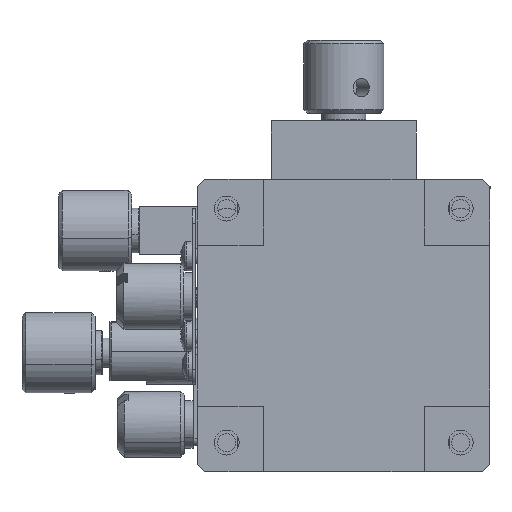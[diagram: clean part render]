
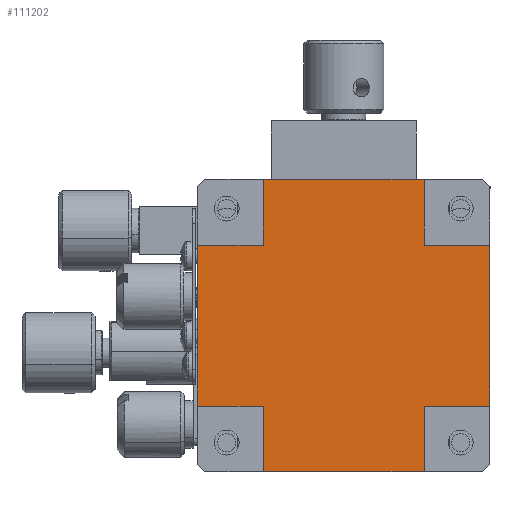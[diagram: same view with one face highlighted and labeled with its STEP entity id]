
A CAD part, front view. The second image highlights one B-rep face of the part: STEP entity #111202.
In plain terms, the highlighted planar face has unit normal (0, -1, 0).
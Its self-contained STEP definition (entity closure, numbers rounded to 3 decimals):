
#844 = DIRECTION ( 'NONE',  ( 0., 0., -1. ) ) ;
#1087 = VERTEX_POINT ( 'NONE', #50672 ) ;
#7184 = ORIENTED_EDGE ( 'NONE', *, *, #91038, .T. ) ;
#7298 = DIRECTION ( 'NONE',  ( 0., 0., -1. ) ) ;
#9354 = VERTEX_POINT ( 'NONE', #70710 ) ;
#14132 = VECTOR ( 'NONE', #165267, 1000. ) ;
#14985 = LINE ( 'NONE', #67682, #135905 ) ;
#17481 = CARTESIAN_POINT ( 'NONE',  ( 24.407, 0.447, -21.444 ) ) ;
#18806 = CARTESIAN_POINT ( 'NONE',  ( -6.593, 0.447, 9.556 ) ) ;
#19020 = VECTOR ( 'NONE', #21464, 1000. ) ;
#21464 = DIRECTION ( 'NONE',  ( 0., 0., 1. ) ) ;
#21714 = CARTESIAN_POINT ( 'NONE',  ( 24.407, 0.447, -12.444 ) ) ;
#23888 = VECTOR ( 'NONE', #124932, 1000. ) ;
#25155 = CARTESIAN_POINT ( 'NONE',  ( 2.407, 0.447, 9.556 ) ) ;
#28369 = CARTESIAN_POINT ( 'NONE',  ( -6.593, 0.447, -12.444 ) ) ;
#30266 = VECTOR ( 'NONE', #81060, 1000. ) ;
#33817 = ORIENTED_EDGE ( 'NONE', *, *, #145435, .F. ) ;
#33948 = CARTESIAN_POINT ( 'NONE',  ( 2.407, 0.447, 18.556 ) ) ;
#35277 = LINE ( 'NONE', #87962, #19020 ) ;
#37853 = EDGE_CURVE ( 'NONE', #137902, #1087, #106249, .T. ) ;
#38704 = ORIENTED_EDGE ( 'NONE', *, *, #158687, .F. ) ;
#39291 = ORIENTED_EDGE ( 'NONE', *, *, #84612, .F. ) ;
#43835 = LINE ( 'NONE', #94841, #62000 ) ;
#46905 = LINE ( 'NONE', #33948, #14132 ) ;
#47820 = VERTEX_POINT ( 'NONE', #147397 ) ;
#49505 = ORIENTED_EDGE ( 'NONE', *, *, #71157, .F. ) ;
#49543 = DIRECTION ( 'NONE',  ( 0., -1., 0. ) ) ;
#50009 = CARTESIAN_POINT ( 'NONE',  ( 24.407, 0.447, 18.556 ) ) ;
#50672 = CARTESIAN_POINT ( 'NONE',  ( 24.407, 0.447, 9.556 ) ) ;
#51260 = FACE_OUTER_BOUND ( 'NONE', #115578, .T. ) ;
#52972 = DIRECTION ( 'NONE',  ( 0., 0., 1. ) ) ;
#55808 = VERTEX_POINT ( 'NONE', #25155 ) ;
#56316 = VECTOR ( 'NONE', #7298, 1000. ) ;
#56799 = DIRECTION ( 'NONE',  ( 1., 0., 0. ) ) ;
#57812 = LINE ( 'NONE', #97549, #152074 ) ;
#62000 = VECTOR ( 'NONE', #56799, 1000. ) ;
#63059 = CARTESIAN_POINT ( 'NONE',  ( 33.407, 0.447, -12.444 ) ) ;
#63473 = ORIENTED_EDGE ( 'NONE', *, *, #108813, .F. ) ;
#67682 = CARTESIAN_POINT ( 'NONE',  ( 24.407, 0.447, -21.444 ) ) ;
#69048 = ORIENTED_EDGE ( 'NONE', *, *, #136011, .T. ) ;
#70710 = CARTESIAN_POINT ( 'NONE',  ( 2.407, 0.447, 18.556 ) ) ;
#70795 = DIRECTION ( 'NONE',  ( 0., 0., 1. ) ) ;
#71157 = EDGE_CURVE ( 'NONE', #72690, #55808, #153283, .T. ) ;
#72690 = VERTEX_POINT ( 'NONE', #18806 ) ;
#76902 = CARTESIAN_POINT ( 'NONE',  ( 24.407, 0.447, 18.556 ) ) ;
#78047 = PLANE ( 'NONE',  #141120 ) ;
#79347 = DIRECTION ( 'NONE',  ( -1., 0., 0. ) ) ;
#79703 = VERTEX_POINT ( 'NONE', #17481 ) ;
#81060 = DIRECTION ( 'NONE',  ( -1., 0., 0. ) ) ;
#84019 = DIRECTION ( 'NONE',  ( 0., 0., -1. ) ) ;
#84612 = EDGE_CURVE ( 'NONE', #111967, #79703, #14985, .T. ) ;
#85604 = VERTEX_POINT ( 'NONE', #131639 ) ;
#85680 = LINE ( 'NONE', #152207, #143394 ) ;
#85925 = LINE ( 'NONE', #111013, #56316 ) ;
#87962 = CARTESIAN_POINT ( 'NONE',  ( 33.407, 0.447, -21.444 ) ) ;
#91038 = EDGE_CURVE ( 'NONE', #72690, #108369, #85925, .T. ) ;
#91613 = CARTESIAN_POINT ( 'NONE',  ( -6.593, 0.447, -12.444 ) ) ;
#94841 = CARTESIAN_POINT ( 'NONE',  ( 33.407, 0.447, -21.444 ) ) ;
#95869 = EDGE_CURVE ( 'NONE', #138323, #47820, #35277, .T. ) ;
#97549 = CARTESIAN_POINT ( 'NONE',  ( 2.407, 0.447, -21.444 ) ) ;
#98951 = LINE ( 'NONE', #111080, #23888 ) ;
#102199 = VECTOR ( 'NONE', #151589, 1000. ) ;
#106249 = LINE ( 'NONE', #76902, #157092 ) ;
#106822 = ORIENTED_EDGE ( 'NONE', *, *, #150896, .F. ) ;
#108369 = VERTEX_POINT ( 'NONE', #91613 ) ;
#108813 = EDGE_CURVE ( 'NONE', #85604, #170867, #57812, .T. ) ;
#110201 = ORIENTED_EDGE ( 'NONE', *, *, #95869, .T. ) ;
#111013 = CARTESIAN_POINT ( 'NONE',  ( -6.593, 0.447, -21.444 ) ) ;
#111080 = CARTESIAN_POINT ( 'NONE',  ( 33.407, 0.447, 18.556 ) ) ;
#111202 = ADVANCED_FACE ( 'NONE', ( #51260 ), #78047, .T. ) ;
#111967 = VERTEX_POINT ( 'NONE', #21714 ) ;
#113714 = EDGE_CURVE ( 'NONE', #138323, #111967, #118257, .T. ) ;
#114713 = ORIENTED_EDGE ( 'NONE', *, *, #127703, .T. ) ;
#115578 = EDGE_LOOP ( 'NONE', ( #110201, #33817, #165827, #69048, #38704, #49505, #7184, #106822, #63473, #114713, #39291, #153874 ) ) ;
#118257 = LINE ( 'NONE', #132942, #141358 ) ;
#124932 = DIRECTION ( 'NONE',  ( -1., 0., 0. ) ) ;
#127703 = EDGE_CURVE ( 'NONE', #85604, #79703, #43835, .T. ) ;
#131639 = CARTESIAN_POINT ( 'NONE',  ( 2.407, 0.447, -21.444 ) ) ;
#131642 = CARTESIAN_POINT ( 'NONE',  ( 13.407, 0.447, -1.444 ) ) ;
#132942 = CARTESIAN_POINT ( 'NONE',  ( 33.407, 0.447, -12.444 ) ) ;
#134396 = CARTESIAN_POINT ( 'NONE',  ( 2.407, 0.447, -12.444 ) ) ;
#135905 = VECTOR ( 'NONE', #84019, 1000. ) ;
#136011 = EDGE_CURVE ( 'NONE', #137902, #9354, #98951, .T. ) ;
#137817 = CARTESIAN_POINT ( 'NONE',  ( -6.593, 0.447, 9.556 ) ) ;
#137902 = VERTEX_POINT ( 'NONE', #50009 ) ;
#138323 = VERTEX_POINT ( 'NONE', #63059 ) ;
#141120 = AXIS2_PLACEMENT_3D ( 'NONE', #131642, #49543, #52972 ) ;
#141358 = VECTOR ( 'NONE', #79347, 1000. ) ;
#143394 = VECTOR ( 'NONE', #153900, 1000. ) ;
#145435 = EDGE_CURVE ( 'NONE', #1087, #47820, #85680, .T. ) ;
#147397 = CARTESIAN_POINT ( 'NONE',  ( 33.407, 0.447, 9.556 ) ) ;
#150896 = EDGE_CURVE ( 'NONE', #170867, #108369, #170955, .T. ) ;
#151589 = DIRECTION ( 'NONE',  ( 1., 0., 0. ) ) ;
#152074 = VECTOR ( 'NONE', #70795, 1000. ) ;
#152207 = CARTESIAN_POINT ( 'NONE',  ( 33.407, 0.447, 9.556 ) ) ;
#153283 = LINE ( 'NONE', #137817, #102199 ) ;
#153874 = ORIENTED_EDGE ( 'NONE', *, *, #113714, .F. ) ;
#153900 = DIRECTION ( 'NONE',  ( 1., 0., 0. ) ) ;
#157092 = VECTOR ( 'NONE', #844, 1000. ) ;
#158687 = EDGE_CURVE ( 'NONE', #55808, #9354, #46905, .T. ) ;
#165267 = DIRECTION ( 'NONE',  ( 0., 0., 1. ) ) ;
#165827 = ORIENTED_EDGE ( 'NONE', *, *, #37853, .F. ) ;
#170867 = VERTEX_POINT ( 'NONE', #134396 ) ;
#170955 = LINE ( 'NONE', #28369, #30266 ) ;
